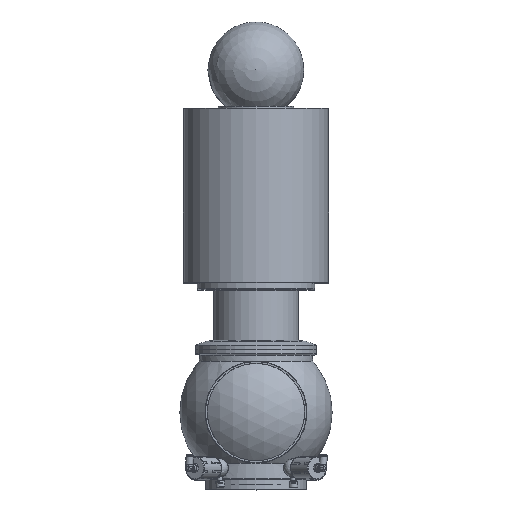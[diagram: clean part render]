
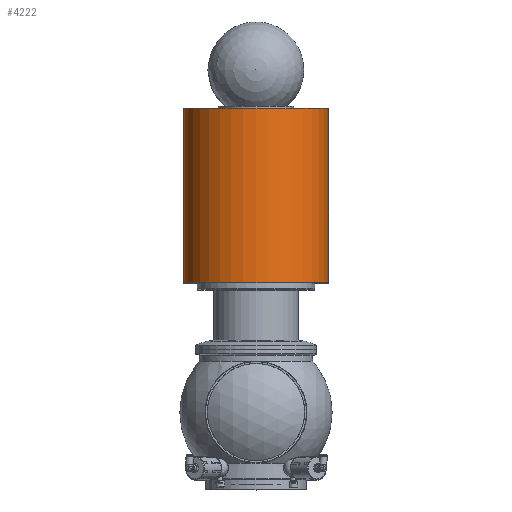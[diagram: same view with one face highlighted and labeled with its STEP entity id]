
A CAD part, top view. The second image highlights one B-rep face of the part: STEP entity #4222.
In plain terms, the highlighted cylindrical face has radius 109.5 mm (diameter 219 mm), a full revolution.
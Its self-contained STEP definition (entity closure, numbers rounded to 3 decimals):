
#348=LINE('',#6955,#567);
#567=VECTOR('',#5368,109.5);
#768=CYLINDRICAL_SURFACE('',#4687,109.5);
#1068=FACE_OUTER_BOUND('',#1303,.T.);
#1303=EDGE_LOOP('',(#3133,#3134,#3135,#3136,#3137,#3138,#3139));
#1575=CIRCLE('',#4674,109.5);
#1576=CIRCLE('',#4675,109.5);
#1577=CIRCLE('',#4676,109.5);
#1582=CIRCLE('',#4685,109.5);
#1583=CIRCLE('',#4686,109.5);
#1892=VERTEX_POINT('',#6930);
#1893=VERTEX_POINT('',#6932);
#1894=VERTEX_POINT('',#6934);
#1899=VERTEX_POINT('',#6950);
#1900=VERTEX_POINT('',#6951);
#2374=EDGE_CURVE('',#1892,#1893,#1575,.T.);
#2375=EDGE_CURVE('',#1893,#1894,#1576,.T.);
#2376=EDGE_CURVE('',#1894,#1892,#1577,.T.);
#2382=EDGE_CURVE('',#1899,#1900,#1582,.T.);
#2383=EDGE_CURVE('',#1900,#1899,#1583,.T.);
#2384=EDGE_CURVE('',#1893,#1900,#348,.T.);
#3133=ORIENTED_EDGE('',*,*,#2376,.F.);
#3134=ORIENTED_EDGE('',*,*,#2375,.F.);
#3135=ORIENTED_EDGE('',*,*,#2384,.T.);
#3136=ORIENTED_EDGE('',*,*,#2383,.T.);
#3137=ORIENTED_EDGE('',*,*,#2382,.T.);
#3138=ORIENTED_EDGE('',*,*,#2384,.F.);
#3139=ORIENTED_EDGE('',*,*,#2374,.F.);
#4222=ADVANCED_FACE('',(#1068),#768,.T.);
#4674=AXIS2_PLACEMENT_3D('',#6933,#5339,#5340);
#4675=AXIS2_PLACEMENT_3D('',#6935,#5341,#5342);
#4676=AXIS2_PLACEMENT_3D('',#6936,#5343,#5344);
#4685=AXIS2_PLACEMENT_3D('',#6952,#5362,#5363);
#4686=AXIS2_PLACEMENT_3D('',#6953,#5364,#5365);
#4687=AXIS2_PLACEMENT_3D('',#6954,#5366,#5367);
#5339=DIRECTION('center_axis',(0.,-1.,0.));
#5340=DIRECTION('ref_axis',(1.,0.,0.));
#5341=DIRECTION('center_axis',(0.,-1.,0.));
#5342=DIRECTION('ref_axis',(1.,0.,0.));
#5343=DIRECTION('center_axis',(0.,-1.,0.));
#5344=DIRECTION('ref_axis',(1.,0.,0.));
#5362=DIRECTION('center_axis',(0.,-1.,0.));
#5363=DIRECTION('ref_axis',(1.,0.,0.));
#5364=DIRECTION('center_axis',(0.,-1.,0.));
#5365=DIRECTION('ref_axis',(1.,0.,0.));
#5366=DIRECTION('center_axis',(0.,-1.,0.));
#5367=DIRECTION('ref_axis',(1.,0.,0.));
#5368=DIRECTION('',(0.,1.,0.));
#6930=CARTESIAN_POINT('',(0.,1.,109.5));
#6932=CARTESIAN_POINT('',(-109.5,1.,0.));
#6933=CARTESIAN_POINT('Origin',(0.,1.,0.));
#6934=CARTESIAN_POINT('',(109.5,1.,0.));
#6935=CARTESIAN_POINT('Origin',(0.,1.,0.));
#6936=CARTESIAN_POINT('Origin',(0.,1.,0.));
#6950=CARTESIAN_POINT('',(109.5,263.5,0.));
#6951=CARTESIAN_POINT('',(-109.5,263.5,0.));
#6952=CARTESIAN_POINT('Origin',(0.,263.5,0.));
#6953=CARTESIAN_POINT('Origin',(0.,263.5,0.));
#6954=CARTESIAN_POINT('Origin',(0.,132.25,0.));
#6955=CARTESIAN_POINT('',(-109.5,132.25,0.));
